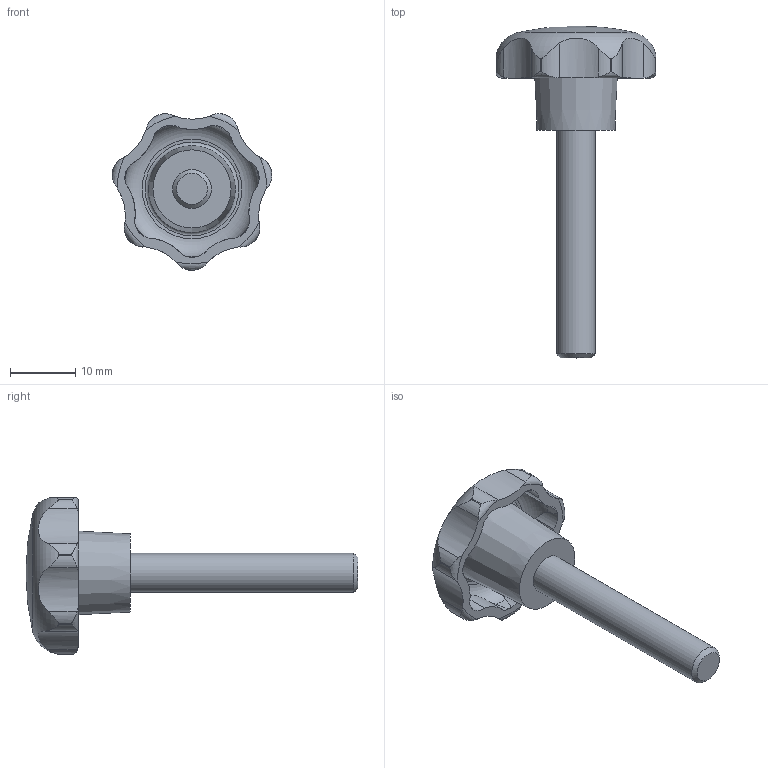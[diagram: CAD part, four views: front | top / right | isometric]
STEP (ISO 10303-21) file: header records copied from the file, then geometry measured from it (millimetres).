
FILE_DESCRIPTION( ( 'STEP AP203' ), '1' );
FILE_NAME( 'C:/Temp/Ganter_Step_05_03_2020/data/2_2/gn_6336_4/gn_6336_4_st/Star knob GN 6336.4-ST-25-M6-35.stp', '2020-03-05T12:07:17', ( 'License CC BY-ND 4.0' ), ( 'CADENAS' ), ' ', 'PARTsolutions', ' ' );
FILE_SCHEMA( ( 'CONFIG_CONTROL_DESIGN' ) );
Length unit declared in the file: millimetre
Products named in the file (1): _Star knob GN 6336.4-ST-25-M6-35
Bounding box: 24.52 x 51 x 24.06 mm (x, y, z)
Volume: 4114.9 mm3; surface area: 2672.5 mm2
Topology: 1 solids, 1 shells, 74 faces, 209 edges, 138 vertices
Faces by surface type: cylinder 50, torus 10, cone 10, plane 3, sphere 1
Full cylindrical faces by diameter (mm): 6 x1
Entity records: 3129 total; most frequent: CARTESIAN_POINT 1317, ORIENTED_EDGE 394, DIRECTION 336, EDGE_CURVE 197, AXIS2_PLACEMENT_3D 147, VERTEX_POINT 135, EDGE_LOOP 83, B_SPLINE_CURVE_WITH_KNOTS 83
